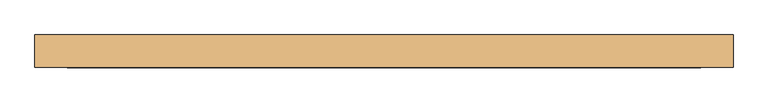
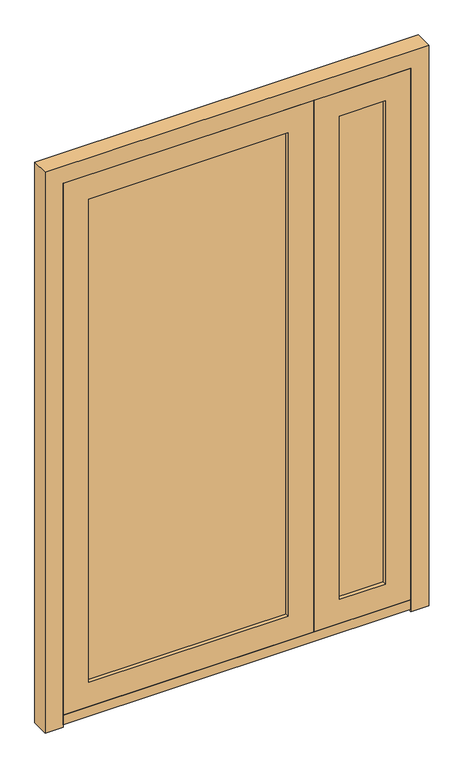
"""IFC4 building model written with IfcOpenShell, lengths in millimetres: door geometry, Dr_Дверь_v2.1 : ДВСТД Ос Дп 23-15 Л EIS60."""

from ifc_helpers import new_model, si_unit, frame, origin, place, context, project, spatial, polyline, outline, extrude, source, transform, mapped, element, save


def door_af9a8955(model_context):
    return source(origin(), model_context, "Body", "SweptSolid", [
        extrude(outline(polyline([(-36.0, -625.0), (-36.0, -555.0), (2210.0, -555.0), (2210.0, 805.0), (-36.0, 805.0), (-36.0, 875.0), (2280.0, 875.0), (2280.0, -625.0), (-36.0, -625.0)])), frame((0.0, 55.0, 0.0), z_axis=(0.0, 1.0, 0.0), x_axis=(0.0, 0.0, 1.0)), (0.0, 0.0, 1.0), 70.0),
        extrude(outline(polyline([(805.0, 125.0), (805.0, 55.0), (-555.0, 55.0), (-555.0, 125.0), (805.0, 125.0)])), frame((0.0, 0.0, -26.0), z_axis=(0.0, 0.0, 1.0), x_axis=(1.0, 0.0, 0.0)), (0.0, 0.0, 1.0), 40.0),
        extrude(outline(polyline([(2210.0, 805.0), (2210.0, 424.9994583), (14.0, 424.9994583), (14.0, 805.0), (2210.0, 805.0)]), holes=[polyline([(114.0, 705.0), (114.0, 525.0), (2110.0, 525.0), (2110.0, 705.0), (114.0, 705.0)])]), frame((0.0, 55.0, 0.0), z_axis=(0.0, 1.0, 0.0), x_axis=(0.0, 0.0, 1.0)), (0.0, 0.0, 1.0), 70.0),
        extrude(outline(polyline([(525.0, 75.0), (705.0, 75.0), (705.0, 70.0), (525.0, 70.0), (525.0, 75.0)])), frame((0.0, 0.0, 114.0), z_axis=(0.0, 0.0, 1.0), x_axis=(1.0, 0.0, 0.0)), (0.0, 0.0, 1.0), 1996.0),
        extrude(outline(polyline([(2210.0, -555.0), (14.0, -555.0), (14.0, 425.0005417), (2210.0, 425.0005417), (2210.0, -555.0)]), holes=[polyline([(114.0, -455.0), (2110.0, -455.0), (2110.0, 325.0), (114.0, 325.0), (114.0, -455.0)])]), frame((0.0, 55.0, 0.0), z_axis=(0.0, 1.0, 0.0), x_axis=(0.0, 0.0, 1.0)), (0.0, 0.0, 1.0), 70.0),
        extrude(outline(polyline([(325.0, 75.0), (325.0, 70.0), (-455.0, 70.0), (-455.0, 75.0), (325.0, 75.0)])), frame((0.0, 0.0, 114.0), z_axis=(0.0, 0.0, 1.0), x_axis=(1.0, 0.0, 0.0)), (0.0, 0.0, 1.0), 1996.0),
    ])


if __name__ == "__main__":
    model = new_model("IFC4")
    model_context = context("Model", 3, world=origin())
    ifc_project = project(units=[si_unit("LENGTHUNIT", "METRE", prefix="MILLI")], contexts=[model_context])
    site = spatial("IfcSite", under=ifc_project)
    building = spatial("IfcBuilding", under=site)
    placement = place(None, origin())
    door_shape = door_af9a8955(model_context)
    element("IfcDoor", 1, ObjectType="Dr_Дверь_v2.1 : ДВСТД Ос Дп 23-15 Л EIS60", at=placement, inside=building, context=model_context, shape_type="MappedRepresentation", body=[
        mapped(door_shape, transform((0.0, 0.0, 0.0), x_axis=(1.0, 0.0, 0.0), y_axis=(0.0, 1.0, 0.0), z_axis=(0.0, 0.0, 1.0))),
    ])
    save(model, "model.ifc")
